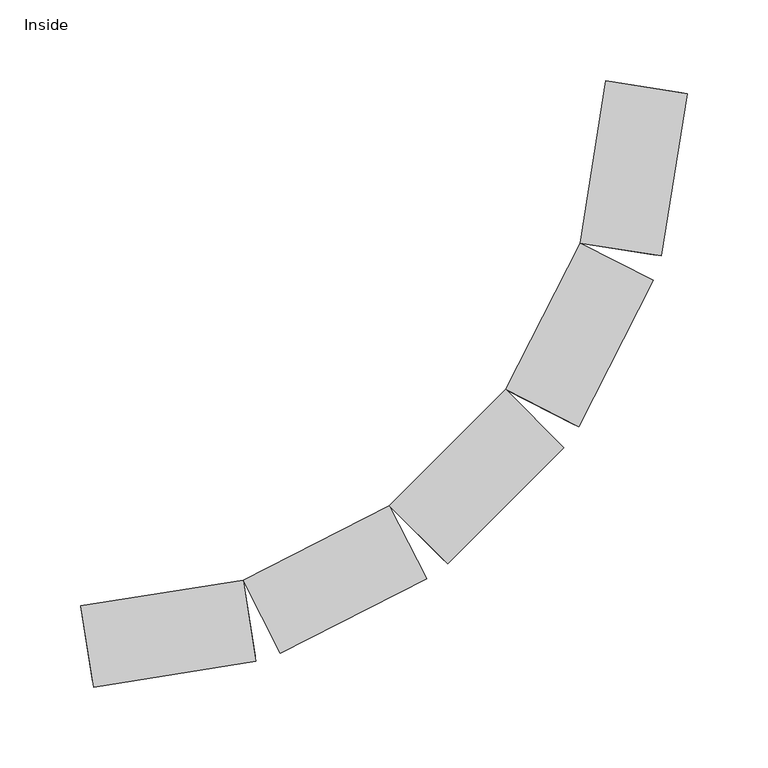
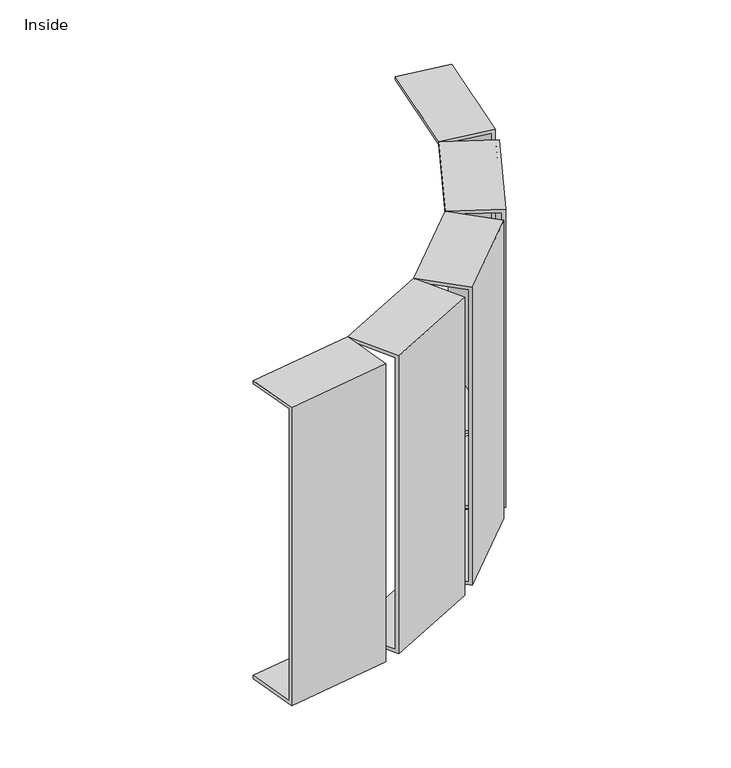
"""IFC4 building model written with IfcOpenShell, lengths in millimetres: cable carrier fitting geometry, Bend-Vertical-Cablofil-Wire_Mesh_Cable_Tray-Cablobend : Inside."""

from ifc_helpers import new_model, si_unit, frame, origin, place, context, project, spatial, polyline, outline, extrude, source, transform, mapped, element, save


def inside_feb4f6bf(model_context):
    return source(origin(), model_context, "Body", "SweptSolid", [
        extrude(outline(polyline([(-50.8, 0.0), (0.0, 0.0), (0.0, -304.8), (-50.8, -304.8), (-50.8, -301.625), (-3.175, -301.625), (-3.175, -3.175), (-50.8, -3.175), (-50.8, 0.0)])), frame((-123.3402009, 51.4981519, -152.4), z_axis=(0.7071067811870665, 0.7071067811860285, 0.0), x_axis=(0.7071067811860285, -0.7071067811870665, 0.0)), (0.0, 0.0, 1.0), 101.6),
        extrude(outline(polyline([(-50.8, 0.0), (0.0, 0.0), (0.0, -304.8), (-50.8, -304.8), (-50.8, -301.625), (-3.175, -301.625), (-3.175, -3.175), (-50.8, -3.175), (-50.8, 0.0)])), frame((-342.1897528, -24.7745677, -152.4), z_axis=(0.9876883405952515, 0.15643446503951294, 0.0), x_axis=(0.15643446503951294, -0.9876883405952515, 0.0)), (0.0, 0.0, 1.0), 101.6),
        extrude(outline(polyline([(-50.8, 0.0), (0.0, 0.0), (0.0, -304.8), (-50.8, -304.8), (-50.8, -301.625), (-3.175, -301.625), (-3.175, -3.175), (-50.8, -3.175), (-50.8, 0.0)])), frame((8.8808261, 241.8406174, -152.4), z_axis=(0.15643446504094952, 0.9876883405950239, 0.0), x_axis=(0.9876883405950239, -0.15643446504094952, 0.0)), (0.0, 0.0, 1.0), 101.6),
        extrude(outline(polyline([(-50.7999999, 0.0), (0.0, 0.0), (0.0, -304.8), (-50.7999999, -304.8), (-50.7999999, -301.625), (-3.175, -301.625), (-3.175, -3.175), (-50.7999999, -3.175), (-50.7999999, 0.0)])), frame((-226.7247709, -3.9693898, -152.4), z_axis=(0.8910065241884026, 0.45399049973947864, 0.0), x_axis=(0.45399049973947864, -0.8910065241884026, 0.0)), (0.0, 0.0, 1.0), 101.6),
        extrude(outline(polyline([(-50.8, 0.0), (0.0, 0.0), (0.0, -304.8), (-50.8, -304.8), (-50.8, -301.625), (-3.175, -301.625), (-3.175, -3.175), (-50.8, -3.175), (-50.8, 0.0)])), frame((-42.156045, 136.198508, -152.4), z_axis=(0.4539904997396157, 0.8910065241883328, 0.0), x_axis=(0.8910065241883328, -0.4539904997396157, 0.0)), (0.0, 0.0, 1.0), 101.6),
    ])


if __name__ == "__main__":
    model = new_model("IFC4")
    model_context = context("Model", 3, world=origin())
    ifc_project = project(units=[si_unit("LENGTHUNIT", "METRE", prefix="MILLI")], contexts=[model_context])
    site = spatial("IfcSite", under=ifc_project)
    building = spatial("IfcBuilding", under=site)
    placement = place(None, origin())
    inside_shape = inside_feb4f6bf(model_context)
    element("IfcCableCarrierFitting", 1, ObjectType="Bend-Vertical-Cablofil-Wire_Mesh_Cable_Tray-Cablobend : Inside", at=placement, inside=building, context=model_context, shape_type="MappedRepresentation", body=[
        mapped(inside_shape, transform((0.0, 0.0, 0.0), x_axis=(1.0, 0.0, 0.0), y_axis=(0.0, 1.0, 0.0), z_axis=(0.0, 0.0, 1.0))),
    ])
    save(model, "model.ifc")
